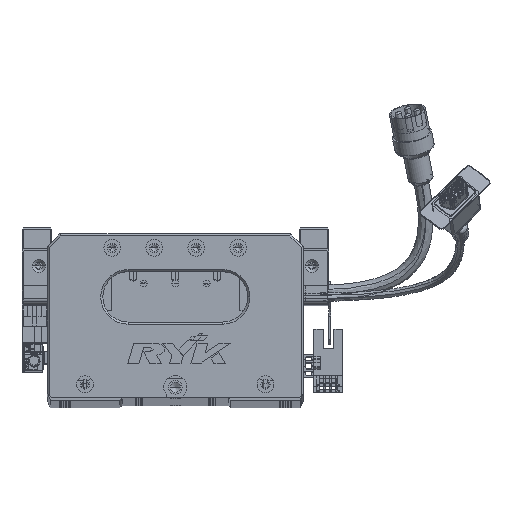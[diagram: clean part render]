
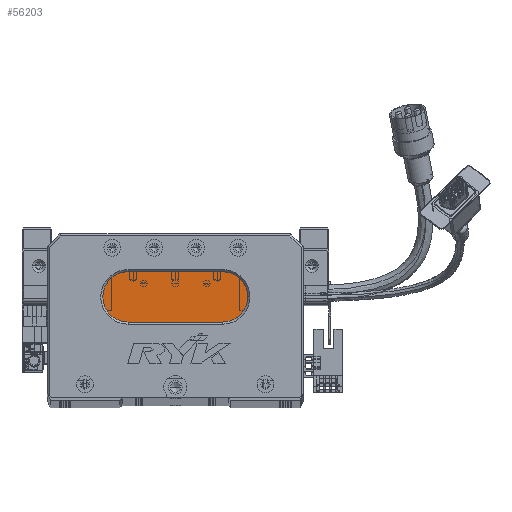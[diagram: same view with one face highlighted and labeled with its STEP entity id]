
A CAD part, top view. The second image highlights one B-rep face of the part: STEP entity #56203.
In plain terms, the highlighted planar face has unit normal (0, 0, 1) as drawn and (0, 0, -1) by its records, which use the part's own axes.
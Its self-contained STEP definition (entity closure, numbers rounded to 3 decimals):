
#2600 = CIRCLE ( 'NONE', #16121, 12. ) ;
#3149 = ORIENTED_EDGE ( 'NONE', *, *, #62466, .T. ) ;
#7597 = ORIENTED_EDGE ( 'NONE', *, *, #53135, .T. ) ;
#9914 = AXIS2_PLACEMENT_3D ( 'NONE', #47975, #109934, #22715 ) ;
#10425 = DIRECTION ( 'NONE',  ( 0., 0., -1. ) ) ;
#10716 = DIRECTION ( 'NONE',  ( -1., 0., 0. ) ) ;
#12373 = CIRCLE ( 'NONE', #9914, 12. ) ;
#14041 = CARTESIAN_POINT ( 'NONE',  ( 83.5, 36., 13. ) ) ;
#16121 = AXIS2_PLACEMENT_3D ( 'NONE', #101824, #49826, #31111 ) ;
#16212 = DIRECTION ( 'NONE',  ( -1., 0., 0. ) ) ;
#22715 = DIRECTION ( 'NONE',  ( -1., 0., 0. ) ) ;
#26240 = CIRCLE ( 'NONE', #34086, 12. ) ;
#30766 = VECTOR ( 'NONE', #10716, 1000. ) ;
#31111 = DIRECTION ( 'NONE',  ( -1., 0., 0. ) ) ;
#31292 = CARTESIAN_POINT ( 'NONE',  ( 83.5, 60., 13. ) ) ;
#34086 = AXIS2_PLACEMENT_3D ( 'NONE', #113061, #51402, #16212 ) ;
#36541 = CARTESIAN_POINT ( 'NONE',  ( 83.5, 48., 13. ) ) ;
#37557 = CARTESIAN_POINT ( 'NONE',  ( 83.5, 36., 13. ) ) ;
#38178 = LINE ( 'NONE', #31292, #53111 ) ;
#40619 = ORIENTED_EDGE ( 'NONE', *, *, #78460, .T. ) ;
#46074 = VERTEX_POINT ( 'NONE', #61145 ) ;
#46520 = VERTEX_POINT ( 'NONE', #69571 ) ;
#46837 = ORIENTED_EDGE ( 'NONE', *, *, #111947, .T. ) ;
#47975 = CARTESIAN_POINT ( 'NONE',  ( 38.5, 48., 13. ) ) ;
#49237 = DIRECTION ( 'NONE',  ( 1., 0., 0. ) ) ;
#49826 = DIRECTION ( 'NONE',  ( 0., 0., -1. ) ) ;
#49835 = LINE ( 'NONE', #37557, #30766 ) ;
#51402 = DIRECTION ( 'NONE',  ( 0., 0., -1. ) ) ;
#52400 = FACE_OUTER_BOUND ( 'NONE', #113097, .T. ) ;
#53111 = VECTOR ( 'NONE', #49237, 1000. ) ;
#53135 = EDGE_CURVE ( 'NONE', #64827, #46520, #38178, .T. ) ;
#56203 = ADVANCED_FACE ( 'NONE', ( #52400 ), #71334, .T. ) ;
#56800 = CARTESIAN_POINT ( 'NONE',  ( 38.5, 36., 13. ) ) ;
#57602 = CARTESIAN_POINT ( 'NONE',  ( 38.5, 60., 13. ) ) ;
#61145 = CARTESIAN_POINT ( 'NONE',  ( 26.5, 48., 13. ) ) ;
#62466 = EDGE_CURVE ( 'NONE', #46074, #64827, #26240, .T. ) ;
#64747 = DIRECTION ( 'NONE',  ( -1., 0., 0. ) ) ;
#64827 = VERTEX_POINT ( 'NONE', #57602 ) ;
#69571 = CARTESIAN_POINT ( 'NONE',  ( 83.5, 60., 13. ) ) ;
#71334 = PLANE ( 'NONE',  #83113 ) ;
#77118 = EDGE_CURVE ( 'NONE', #88020, #94705, #49835, .T. ) ;
#78460 = EDGE_CURVE ( 'NONE', #46520, #88020, #2600, .T. ) ;
#83113 = AXIS2_PLACEMENT_3D ( 'NONE', #36541, #10425, #64747 ) ;
#88020 = VERTEX_POINT ( 'NONE', #14041 ) ;
#90296 = ORIENTED_EDGE ( 'NONE', *, *, #77118, .T. ) ;
#94705 = VERTEX_POINT ( 'NONE', #56800 ) ;
#101824 = CARTESIAN_POINT ( 'NONE',  ( 83.5, 48., 13. ) ) ;
#109934 = DIRECTION ( 'NONE',  ( 0., 0., -1. ) ) ;
#111947 = EDGE_CURVE ( 'NONE', #94705, #46074, #12373, .T. ) ;
#113061 = CARTESIAN_POINT ( 'NONE',  ( 38.5, 48., 13. ) ) ;
#113097 = EDGE_LOOP ( 'NONE', ( #40619, #90296, #46837, #3149, #7597 ) ) ;
